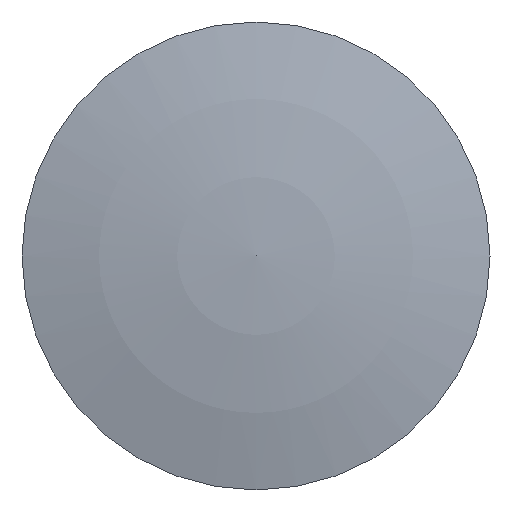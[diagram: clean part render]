
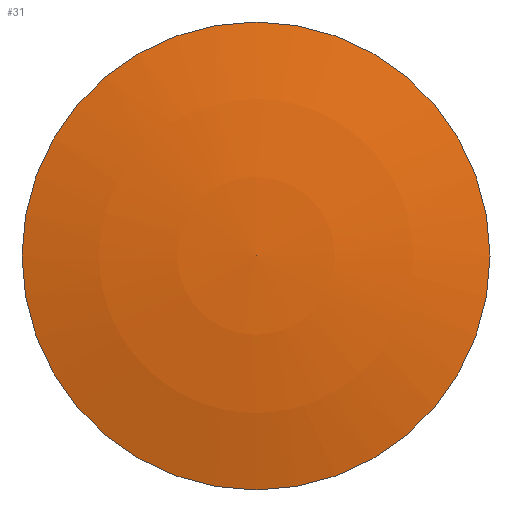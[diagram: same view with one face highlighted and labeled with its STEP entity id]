
A CAD part, top view. The second image highlights one B-rep face of the part: STEP entity #31.
In plain terms, the highlighted spherical face has radius 1678 mm.
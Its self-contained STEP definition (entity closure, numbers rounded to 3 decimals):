
#31 = ADVANCED_FACE( '', ( #58, #59 ), #60, .T. );
#58 = FACE_BOUND( '', #77, .T. );
#59 = FACE_OUTER_BOUND( '', #78, .T. );
#60 = SPHERICAL_SURFACE( '', #79, 1678. );
#77 = VERTEX_LOOP( '', #94 );
#78 = EDGE_LOOP( '', ( #95 ) );
#79 = AXIS2_PLACEMENT_3D( '', #96, #97, #98 );
#94 = VERTEX_POINT( '', #105 );
#95 = ORIENTED_EDGE( '', *, *, #100, .T. );
#96 = CARTESIAN_POINT( '', ( 0., 0., -1622. ) );
#97 = DIRECTION( '', ( 0., 0., 1. ) );
#98 = DIRECTION( '', ( 0., 1., 0. ) );
#100 = EDGE_CURVE( '', #107, #107, #108, .T. );
#105 = CARTESIAN_POINT( '', ( 0., 0., 56. ) );
#107 = VERTEX_POINT( '', #114 );
#108 = CIRCLE( '', #115, 410. );
#114 = CARTESIAN_POINT( '', ( 410., 0., 5.14 ) );
#115 = AXIS2_PLACEMENT_3D( '', #120, #121, #122 );
#120 = CARTESIAN_POINT( '', ( 0., 0., 5.14 ) );
#121 = DIRECTION( '', ( 0., 0., 1. ) );
#122 = DIRECTION( '', ( 1., 0., 0. ) );
